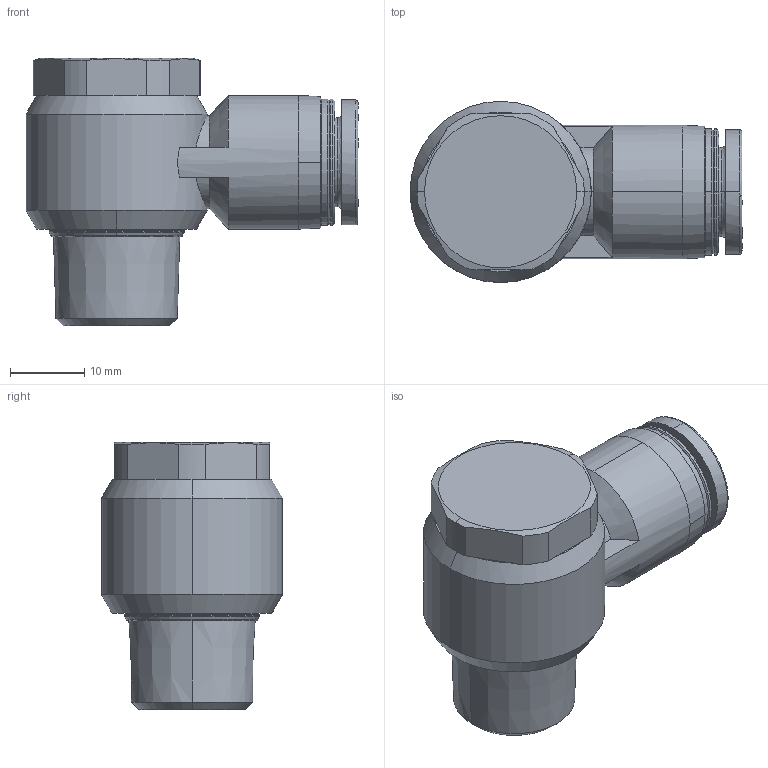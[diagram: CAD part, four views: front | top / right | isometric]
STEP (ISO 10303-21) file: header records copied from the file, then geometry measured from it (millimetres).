
FILE_DESCRIPTION (( 'STEP AP214' ), '1' );
FILE_NAME ('KQ2V10-03AS.STEP', '2023-03-06T10:01:35', ( 'Windows User' ), ( 'P R C' ), 'SwSTEP 2.0', 'SolidWorks 2019', '' );
FILE_SCHEMA (( 'AUTOMOTIVE_DESIGN' ));
Length unit declared in the file: millimetre
Products named in the file (1): KQ2V10-03AS
Bounding box: 44.7 x 24.4 x 36 mm (x, y, z)
Volume: 16092 mm3; surface area: 5312.1 mm2
Topology: 1 solids, 1 shells, 93 faces, 225 edges, 141 vertices
Faces by surface type: plane 32, cylinder 28, cone 25, bspline 8
Entity records: 3120 total; most frequent: CARTESIAN_POINT 890, DIRECTION 492, ORIENTED_EDGE 450, EDGE_CURVE 225, AXIS2_PLACEMENT_3D 205, VERTEX_POINT 141, CIRCLE 119, EDGE_LOOP 100
